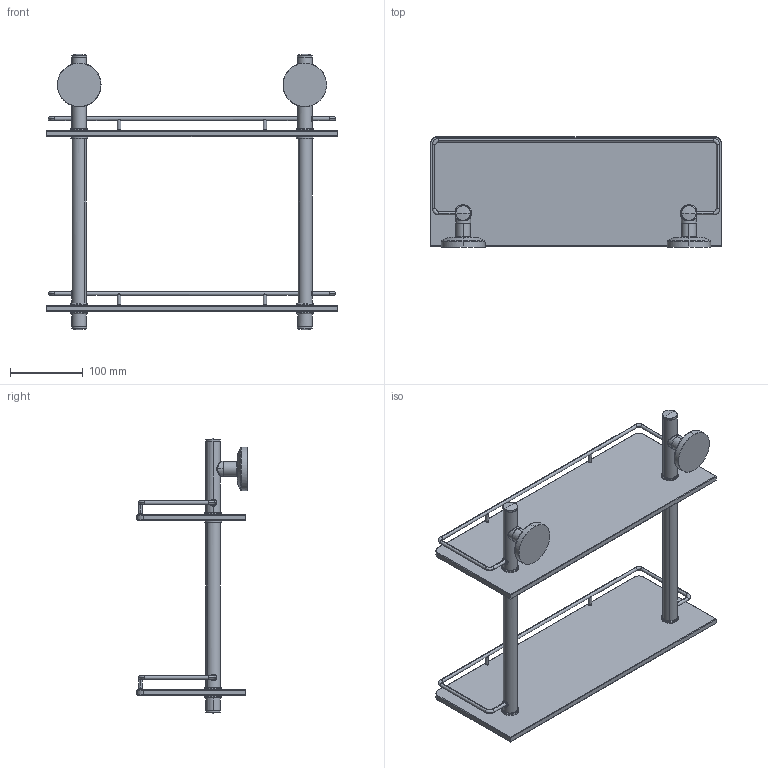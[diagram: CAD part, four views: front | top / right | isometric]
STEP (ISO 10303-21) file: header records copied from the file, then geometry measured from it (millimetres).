
FILE_DESCRIPTION(('THIS FILE CONTAINS SOME STEP INSTANCES'),'1');
FILE_NAME('sta_063.stp','2015-12-09T 9:53:17',('UNDEFINED'),('UNDEFINED'),'T-FLEX CAD STEP converter','T-FLEX CAD','');
FILE_SCHEMA(('CONFIG_CONTROL_DESIGN'));
Length unit declared in the file: metre
Products named in the file (6): 砱鋋_23; 砱鋋_24; 3D 鐨飹懤艜_49
Bounding box: 400 x 151.9 x 378.4 mm (x, y, z)
Volume: 1295227.6 mm3; surface area: 346367.8 mm2
Topology: 6 solids, 10 shells, 370 faces, 886 edges, 556 vertices
Faces by surface type: cylinder 132, plane 74, cone 64, bspline 52, torus 40, sphere 8
Entity records: 24887 total; most frequent: CARTESIAN_POINT 17793, ORIENTED_EDGE 1756, DIRECTION 1048, EDGE_CURVE 878, VERTEX_POINT 556, EDGE_LOOP 406, AXIS2_PLACEMENT_3D 400, ADVANCED_FACE 370
